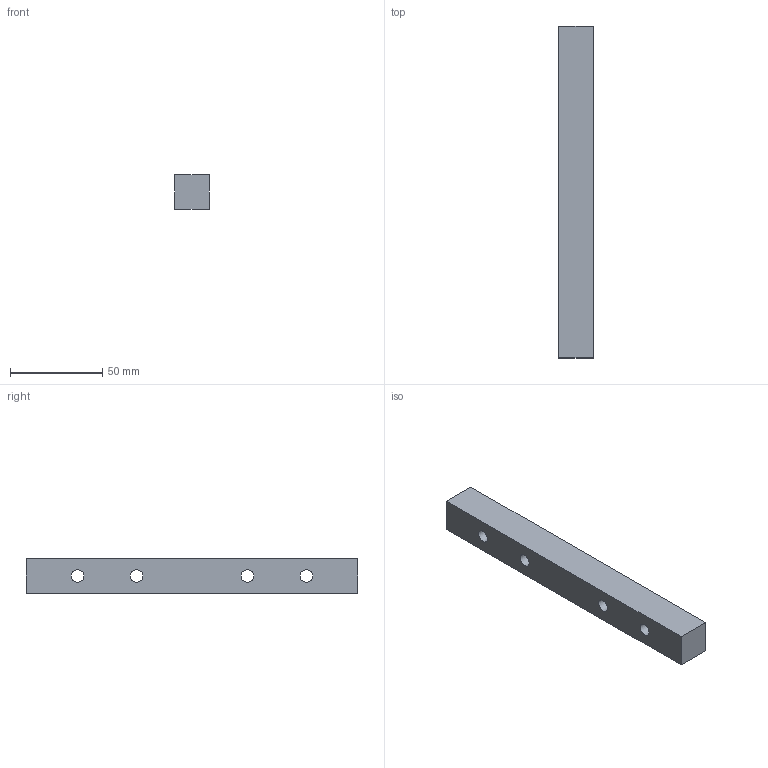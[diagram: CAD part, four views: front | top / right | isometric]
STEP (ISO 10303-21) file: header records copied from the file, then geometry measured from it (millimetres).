
FILE_DESCRIPTION(('FreeCAD Model'),'2;1');
FILE_NAME('Open CASCADE Shape Model','2026-10-06T09:33:39',('FreeCAD'),( 'FreeCAD'),'Open CASCADE STEP processor 7.8','FreeCAD','Unknown');
FILE_SCHEMA(('AUTOMOTIVE_DESIGN { 1 0 10303 214 1 1 1 1 }'));
Length unit declared in the file: millimetre
Products named in the file (1): Open CASCADE STEP translator 7.8 91
Bounding box: 18.75 x 180 x 18.75 mm (x, y, z)
Volume: 60557.5 mm3; surface area: 15514.8 mm2
Topology: 1 solids, 1 shells, 10 faces, 24 edges, 16 vertices
Faces by surface type: plane 6, cylinder 4
Full cylindrical faces by diameter (mm): 6.8 x4
Entity records: 322 total; most frequent: DIRECTION 54, CARTESIAN_POINT 51, ORIENTED_EDGE 48, EDGE_CURVE 24, AXIS2_PLACEMENT_3D 19, FACE_BOUND 18, EDGE_LOOP 18, VERTEX_POINT 16
